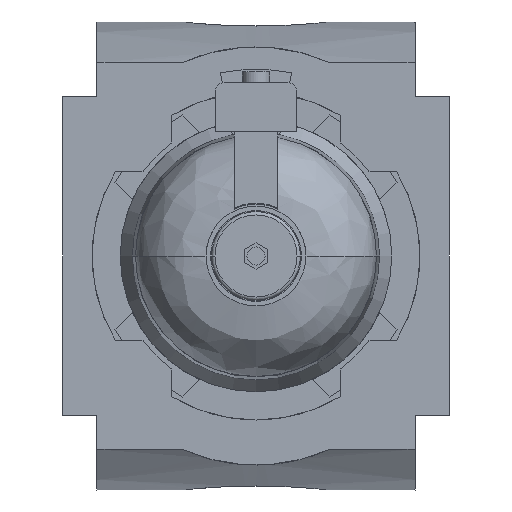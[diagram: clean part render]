
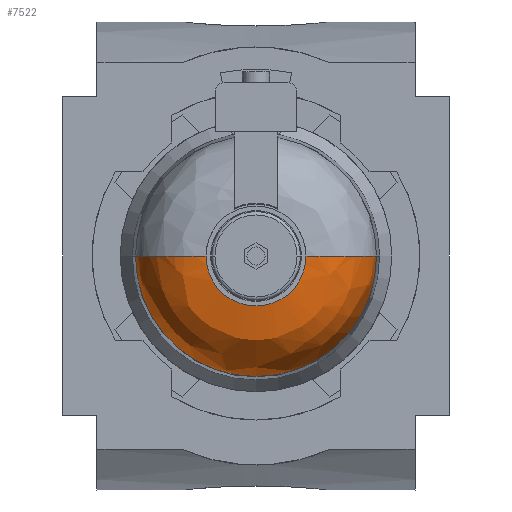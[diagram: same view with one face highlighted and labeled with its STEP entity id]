
A CAD part, front view. The second image highlights one B-rep face of the part: STEP entity #7522.
In plain terms, the highlighted free-form (B-spline) face has degree [3, 3] with [7, 4] control points.
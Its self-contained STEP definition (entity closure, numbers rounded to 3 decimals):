
#5878=CARTESIAN_POINT('',(0.,-131.3,0.));
#5879=DIRECTION('',(0.,1.,0.));
#5880=DIRECTION('',(1.,0.,0.));
#5881=AXIS2_PLACEMENT_3D('',#5878,#5879,#5880);
#5883=CARTESIAN_POINT('',(11.528,-131.2,0.));
#5884=DIRECTION('',(0.,0.,1.));
#5885=DIRECTION('',(-0.035,-0.999,0.));
#5886=AXIS2_PLACEMENT_3D('',#5883,#5884,#5885);
#5888=CARTESIAN_POINT('',(-11.528,-131.2,0.));
#5889=DIRECTION('',(0.,0.,-1.));
#5890=DIRECTION('',(0.035,-0.999,0.));
#5891=AXIS2_PLACEMENT_3D('',#5888,#5889,#5890);
#5893=CARTESIAN_POINT('',(0.,-146.191,0.));
#5894=DIRECTION('',(0.,1.,0.));
#5895=DIRECTION('',(1.,0.,0.));
#5896=AXIS2_PLACEMENT_3D('',#5893,#5894,#5895);
#6350=CARTESIAN_POINT('',(11.,-146.191,0.));
#6352=VERTEX_POINT('',#6350);
#6353=CARTESIAN_POINT('',(26.528,-131.3,0.));
#6354=VERTEX_POINT('',#6353);
#6362=CARTESIAN_POINT('',(-11.,-146.191,0.));
#6364=VERTEX_POINT('',#6362);
#6365=CARTESIAN_POINT('',(-26.528,-131.3,0.));
#6366=VERTEX_POINT('',#6365);
#7484=CARTESIAN_POINT('',(-26.471,-130.82,
1.665));
#7485=CARTESIAN_POINT('',(-26.71,-140.263,
1.68));
#7486=CARTESIAN_POINT('',(-19.906,-146.801,
1.252));
#7487=CARTESIAN_POINT('',(-10.5,-146.166,
0.661));
#7488=CARTESIAN_POINT('',(-27.496,-130.82,
-14.625));
#7489=CARTESIAN_POINT('',(-27.744,-140.263,
-14.757));
#7490=CARTESIAN_POINT('',(-20.677,-146.801,
-10.998));
#7491=CARTESIAN_POINT('',(-10.907,-146.166,
-5.801));
#7492=CARTESIAN_POINT('',(-16.323,-130.82,
-26.524));
#7493=CARTESIAN_POINT('',(-16.47,-140.263,
-26.763));
#7494=CARTESIAN_POINT('',(-12.274,-146.801,
-19.945));
#7495=CARTESIAN_POINT('',(-6.475,-146.166,
-10.521));
#7496=CARTESIAN_POINT('',(0.,-130.82,
-26.524));
#7497=CARTESIAN_POINT('',(0.,-140.263,
-26.763));
#7498=CARTESIAN_POINT('',(0.,-146.801,
-19.945));
#7499=CARTESIAN_POINT('',(0.,-146.166,
-10.521));
#7500=CARTESIAN_POINT('',(16.323,-130.82,
-26.524));
#7501=CARTESIAN_POINT('',(16.47,-140.263,
-26.763));
#7502=CARTESIAN_POINT('',(12.274,-146.801,
-19.945));
#7503=CARTESIAN_POINT('',(6.475,-146.166,
-10.521));
#7504=CARTESIAN_POINT('',(27.496,-130.82,
-14.625));
#7505=CARTESIAN_POINT('',(27.744,-140.263,
-14.757));
#7506=CARTESIAN_POINT('',(20.677,-146.801,
-10.998));
#7507=CARTESIAN_POINT('',(10.907,-146.166,
-5.801));
#7508=CARTESIAN_POINT('',(26.471,-130.82,1.665));
#7509=CARTESIAN_POINT('',(26.71,-140.263,1.68));
#7510=CARTESIAN_POINT('',(19.906,-146.801,1.252));
#7511=CARTESIAN_POINT('',(10.5,-146.166,
0.661));
#7512=(BOUNDED_SURFACE()B_SPLINE_SURFACE(3,3,((#7484,#7485,#7486,#7487),(#7488,
#7489,#7490,#7491),(#7492,#7493,#7494,#7495),(#7496,#7497,#7498,#7499),(#7500,
#7501,#7502,#7503),(#7504,#7505,#7506,#7507),(#7508,#7509,#7510,#7511)),
.UNSPECIFIED.,.F.,.F.,.F.)B_SPLINE_SURFACE_WITH_KNOTS((4,3,4),(4,4),(0.,1.,
2.),(0.,1.),.UNSPECIFIED.)GEOMETRIC_REPRESENTATION_ITEM()RATIONAL_B_SPLINE_SURFACE(((1.419,1.11,1.11,1.419),(
1.12,0.877,0.877,1.12),(
1.12,0.877,0.877,1.12),(
1.419,1.11,1.11,1.419),(
1.12,0.877,0.877,1.12),(
1.12,0.877,0.877,1.12),(
1.419,1.11,1.11,1.419)))REPRESENTATION_ITEM('')SURFACE());
#7514=ORIENTED_EDGE('',*,*,#7513,.T.);
#7515=ORIENTED_EDGE('',*,*,#7479,.T.);
#7517=ORIENTED_EDGE('',*,*,#7516,.F.);
#7519=ORIENTED_EDGE('',*,*,#7518,.F.);
#7520=EDGE_LOOP('',(#7514,#7515,#7517,#7519));
#7521=FACE_OUTER_BOUND('',#7520,.F.);
#7522=ADVANCED_FACE('',(#7521),#7512,.T.);
#5882=CIRCLE('',#5881,26.528);
#5887=CIRCLE('',#5886,15.);
#5892=CIRCLE('',#5891,15.);
#5897=CIRCLE('',#5896,11.);
#7479=EDGE_CURVE('',#6354,#6366,#5882,.T.);
#7513=EDGE_CURVE('',#6352,#6354,#5887,.T.);
#7516=EDGE_CURVE('',#6364,#6366,#5892,.T.);
#7518=EDGE_CURVE('',#6352,#6364,#5897,.T.);
